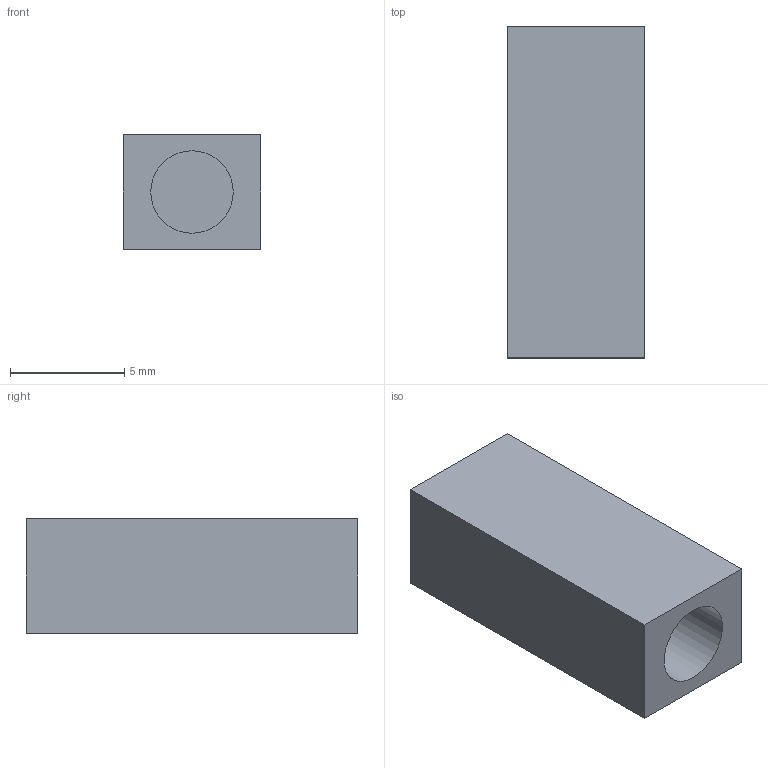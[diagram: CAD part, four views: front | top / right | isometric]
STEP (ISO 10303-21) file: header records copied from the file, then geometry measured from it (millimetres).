
FILE_DESCRIPTION(('Open CASCADE Model'),'2;1');
FILE_NAME('Open CASCADE Shape Model','2026-11-21T14:29:11',('Author'),( 'Open CASCADE'),'Open CASCADE STEP processor 7.9','Open CASCADE 7.9' ,'Unknown');
FILE_SCHEMA(('AUTOMOTIVE_DESIGN { 1 0 10303 214 1 1 1 1 }'));
Length unit declared in the file: millimetre
Products named in the file (2): Same Sky stereo jack fit envelope; SJ-3523-SMT housing and bore
Assembly tree (1 placements, depth 2):
  Same Sky stereo jack fit envelope
    SJ-3523-SMT housing and bore
Bounding box: 6 x 14.5 x 5 mm (x, y, z)
Volume: 354.6 mm3; surface area: 468.3 mm2
Topology: 1 solids, 1 shells, 8 faces, 15 edges, 10 vertices
Faces by surface type: plane 7, cylinder 1
Full cylindrical faces by diameter (mm): 3.6 x1
Entity records: 436 total; most frequent: CARTESIAN_POINT 71, DIRECTION 66, LINE 41, VECTOR 41, ORIENTED_EDGE 30, PCURVE 30, DEFINITIONAL_REPRESENTATION 30, EDGE_CURVE 15
